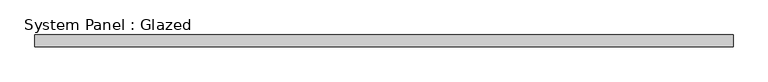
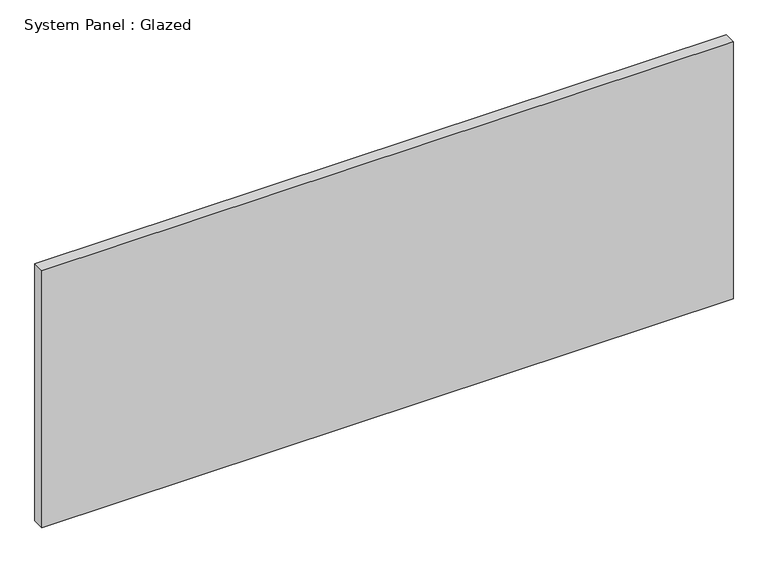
"""IFC4 building model written with IfcOpenShell, lengths in millimetres: plate geometry, System Panel : Glazed."""

from ifc_helpers import new_model, si_unit, origin, origin_with_axes, place, context, project, spatial, polyline, outline, extrude, source, transform, mapped, element, save


def system_panel_glazed_51f493bd(model_context):
    return source(origin(), model_context, "Body", "SweptSolid", [
        extrude(outline(polyline([(742.95, 19.05), (-742.95, 19.05), (-742.95, 44.45), (742.95, 44.45), (742.95, 19.05)])), origin_with_axes(), (0.0, 0.0, 1.0), 584.2),
    ])


if __name__ == "__main__":
    model = new_model("IFC4")
    model_context = context("Model", 3, world=origin())
    ifc_project = project(units=[si_unit("LENGTHUNIT", "METRE", prefix="MILLI")], contexts=[model_context])
    site = spatial("IfcSite", under=ifc_project)
    building = spatial("IfcBuilding", under=site)
    placement = place(None, origin())
    system_panel_glazed_shape = system_panel_glazed_51f493bd(model_context)
    element("IfcPlate", 1, ObjectType="System Panel : Glazed", at=placement, inside=building, context=model_context, shape_type="MappedRepresentation", body=[
        mapped(system_panel_glazed_shape, transform((0.0, 0.0, 0.0), x_axis=(1.0, 0.0, 0.0), y_axis=(0.0, 1.0, 0.0), z_axis=(0.0, 0.0, 1.0))),
    ])
    save(model, "model.ifc")
